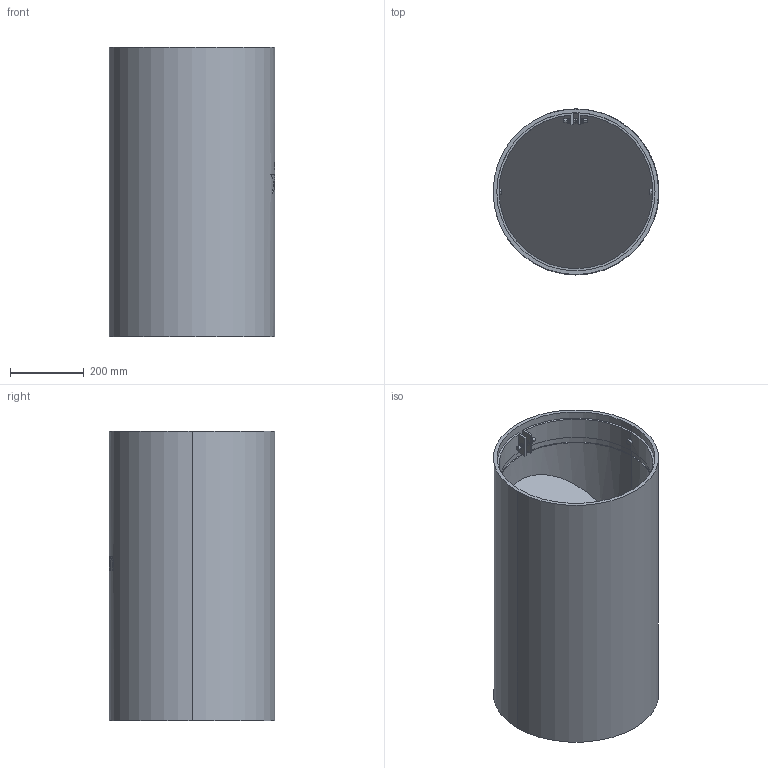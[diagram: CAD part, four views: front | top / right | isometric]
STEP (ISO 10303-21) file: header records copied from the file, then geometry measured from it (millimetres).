
FILE_DESCRIPTION (( 'STEP AP214' ), '1' );
FILE_NAME ('CF-IL-G5-PRO-S0450-NN-316-IDP.STEP', '2023-02-13T16:17:17', ( '' ), ( '' ), 'SwSTEP 2.0', 'SolidWorks 2022', '' );
FILE_SCHEMA (( 'AUTOMOTIVE_DESIGN' ));
Length unit declared in the file: millimetre
Products named in the file (3): CF-IL-G5-PRO-S0450-NN-316-IDP; Clamp 450_450; CF-IL-G5-PRO-S0450-NN-316-IDP_CM-0100-B
Assembly tree (2 placements, depth 2):
  CF-IL-G5-PRO-S0450-NN-316-IDP
    CF-IL-G5-PRO-S0450-NN-316-IDP_CM-0100-B
    Clamp 450_450
Bounding box: 450.5 x 450.5 x 788 mm (x, y, z)
Volume: 14567332.4 mm3; surface area: 2783962.2 mm2
Topology: 6 solids, 6 shells, 1696 faces, 4881 edges, 3234 vertices
Faces by surface type: plane 749, bspline 670, cylinder 142, cone 135
Entity records: 76312 total; most frequent: CARTESIAN_POINT 22790, ORIENTED_EDGE 9762, DIRECTION 4977, EDGE_CURVE 4881, VERTEX_POINT 3234, B_SPLINE_CURVE_WITH_KNOTS 2276, LINE 2245, VECTOR 2245
